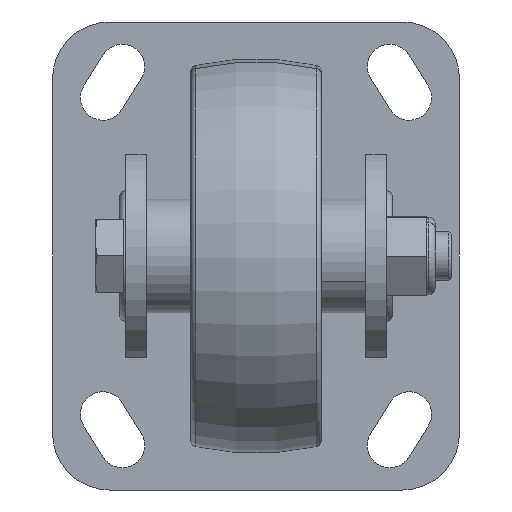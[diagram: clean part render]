
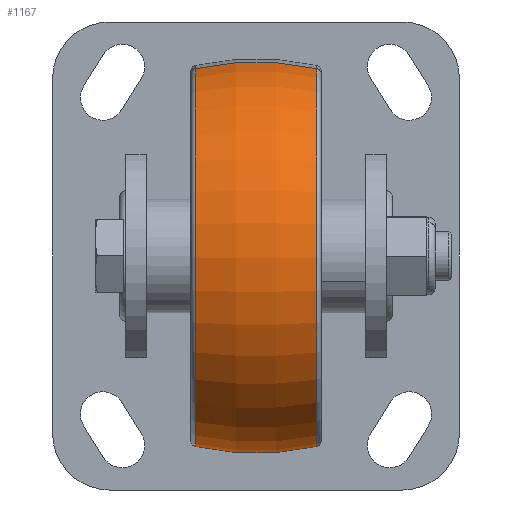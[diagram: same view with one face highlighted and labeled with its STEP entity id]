
A CAD part, front view. The second image highlights one B-rep face of the part: STEP entity #1167.
In plain terms, the highlighted toroidal (fillet/blend) face has major radius 18.771 mm and minor radius 67.256 mm.
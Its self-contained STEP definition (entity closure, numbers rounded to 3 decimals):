
#438 = CARTESIAN_POINT ( 'NONE',  ( 15.283, 0., 46.82 ) ) ;
#675 = TOROIDAL_SURFACE ( 'NONE', #6545, -18.771, 67.256 ) ;
#718 = AXIS2_PLACEMENT_3D ( 'NONE', #3858, #1039, #4466 ) ;
#729 = AXIS2_PLACEMENT_3D ( 'NONE', #6583, #1993, #4036 ) ;
#988 = VERTEX_POINT ( 'NONE', #4611 ) ;
#1039 = DIRECTION ( 'NONE',  ( 0., -1., 0. ) ) ;
#1070 = ORIENTED_EDGE ( 'NONE', *, *, #6611, .T. ) ;
#1126 = ORIENTED_EDGE ( 'NONE', *, *, #4964, .F. ) ;
#1167 = ADVANCED_FACE ( 'NONE', ( #5153 ), #675, .T. ) ;
#1696 = EDGE_LOOP ( 'NONE', ( #1126, #1070, #6256, #3958 ) ) ;
#1993 = DIRECTION ( 'NONE',  ( -1., 0., 0. ) ) ;
#2423 = CIRCLE ( 'NONE', #6490, 67.256 ) ;
#2536 = VERTEX_POINT ( 'NONE', #438 ) ;
#2543 = CIRCLE ( 'NONE', #729, 46.82 ) ;
#2704 = DIRECTION ( 'NONE',  ( -1., 0., 0. ) ) ;
#2895 = CIRCLE ( 'NONE', #4931, 46.82 ) ;
#3219 = DIRECTION ( 'NONE',  ( -1., 0., 0. ) ) ;
#3692 = CARTESIAN_POINT ( 'NONE',  ( 0.405, 0., 0. ) ) ;
#3731 = DIRECTION ( 'NONE',  ( 0., 0., 1. ) ) ;
#3858 = CARTESIAN_POINT ( 'NONE',  ( 0.405, 0., -18.771 ) ) ;
#3958 = ORIENTED_EDGE ( 'NONE', *, *, #5490, .F. ) ;
#4036 = DIRECTION ( 'NONE',  ( 0., 0., 1. ) ) ;
#4104 = DIRECTION ( 'NONE',  ( 0., 0., 1. ) ) ;
#4383 = CARTESIAN_POINT ( 'NONE',  ( 0.405, 0., 18.771 ) ) ;
#4443 = CARTESIAN_POINT ( 'NONE',  ( 15.283, 0., -46.82 ) ) ;
#4466 = DIRECTION ( 'NONE',  ( 0., 0., -1. ) ) ;
#4611 = CARTESIAN_POINT ( 'NONE',  ( -14.472, 0., -46.82 ) ) ;
#4720 = DIRECTION ( 'NONE',  ( 0., 0., 1. ) ) ;
#4931 = AXIS2_PLACEMENT_3D ( 'NONE', #5709, #2704, #4104 ) ;
#4964 = EDGE_CURVE ( 'NONE', #5022, #988, #2423, .T. ) ;
#5022 = VERTEX_POINT ( 'NONE', #4443 ) ;
#5153 = FACE_OUTER_BOUND ( 'NONE', #1696, .T. ) ;
#5205 = CIRCLE ( 'NONE', #718, 67.256 ) ;
#5490 = EDGE_CURVE ( 'NONE', #988, #5792, #2543, .T. ) ;
#5709 = CARTESIAN_POINT ( 'NONE',  ( 15.283, 0., 0. ) ) ;
#5792 = VERTEX_POINT ( 'NONE', #5920 ) ;
#5920 = CARTESIAN_POINT ( 'NONE',  ( -14.472, 0., 46.82 ) ) ;
#6256 = ORIENTED_EDGE ( 'NONE', *, *, #6389, .T. ) ;
#6389 = EDGE_CURVE ( 'NONE', #2536, #5792, #5205, .T. ) ;
#6434 = DIRECTION ( 'NONE',  ( 0., 1., 0. ) ) ;
#6490 = AXIS2_PLACEMENT_3D ( 'NONE', #4383, #6434, #3731 ) ;
#6545 = AXIS2_PLACEMENT_3D ( 'NONE', #3692, #3219, #4720 ) ;
#6583 = CARTESIAN_POINT ( 'NONE',  ( -14.472, 0., 0. ) ) ;
#6611 = EDGE_CURVE ( 'NONE', #5022, #2536, #2895, .T. ) ;
